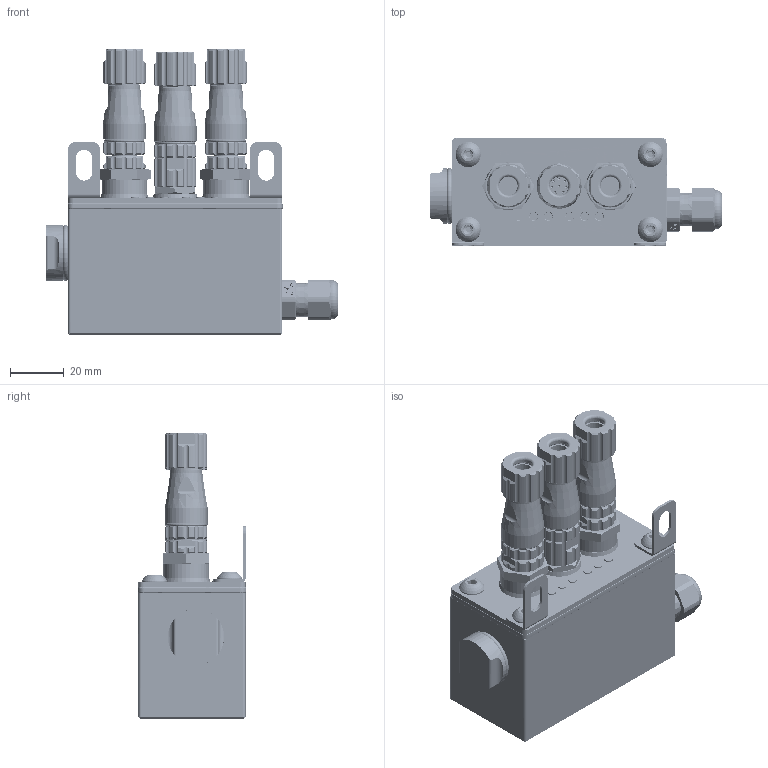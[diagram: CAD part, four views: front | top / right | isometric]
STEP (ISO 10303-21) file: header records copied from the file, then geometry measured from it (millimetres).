
FILE_DESCRIPTION((''),'1');
FILE_NAME('EMLC_standard.step','2024-03-15T09:08:47',(''),(''),'','','');
FILE_SCHEMA(('AUTOMOTIVE_DESIGN { 1 0 10303 214 1 1 1 1 }'));
Products named in the file (6): EMLC standard; EMLC plug 01; EMLC cable gland 01; EMLC part 03; EMLC part 04
Assembly tree (5 placements, depth 2):
  EMLC standard
    EMLC standard
    EMLC plug 01
    EMLC cable gland 01
    EMLC part 03
    EMLC part 04
Bounding box: 109.4 x 40.3 x 106.5 mm (x, y, z)
Volume: 195655.1 mm3; surface area: 50192 mm2
Topology: 11 solids, 16 shells, 3722 faces, 10188 edges, 6579 vertices
Faces by surface type: plane 1628, cylinder 1099, cone 574, bspline 243, torus 100, sphere 76, extrusion 2
Entity records: 246099 total; most frequent: CARTESIAN_POINT 153091, ORIENTED_EDGE 20168, DIRECTION 18652, EDGE_CURVE 10084, AXIS2_PLACEMENT_3D 6889, VERTEX_POINT 6573, VECTOR 4874, LINE 4872
